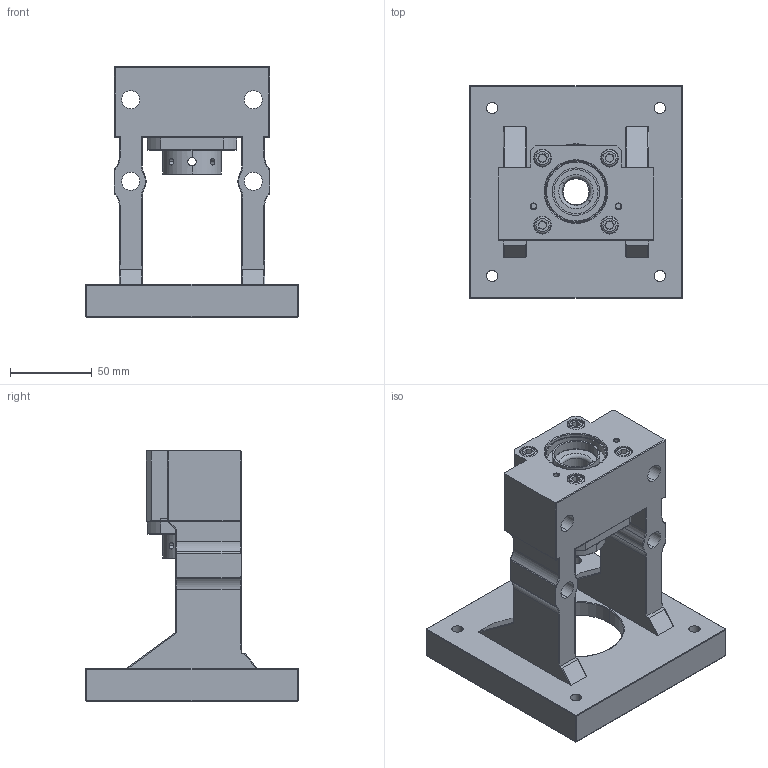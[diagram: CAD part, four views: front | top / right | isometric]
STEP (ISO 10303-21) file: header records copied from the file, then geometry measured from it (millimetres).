
FILE_DESCRIPTION (( 'STEP AP203' ), '1' );
FILE_NAME ('MBCS17-G.STEP', '2017-12-28T07:50:57', ( '' ), ( '' ), 'SwSTEP 2.0', 'SolidWorks 2017', '' );
FILE_SCHEMA (( 'CONFIG_CONTROL_DESIGN' ));
Length unit declared in the file: millimetre
Products named in the file (1): MBCS17-G
Bounding box: 130 x 130 x 153 mm (x, y, z)
Surface area: 109044.5 mm2 (no closed solid volume)
Topology: 0 solids, 16 shells, 376 faces, 957 edges, 586 vertices
Faces by surface type: cylinder 172, plane 96, cone 50, torus 48, sphere 10
Entity records: 12061 total; most frequent: CARTESIAN_POINT 2886, DIRECTION 2033, ORIENTED_EDGE 1758, EDGE_CURVE 939, AXIS2_PLACEMENT_3D 803, VERTEX_POINT 586, EDGE_LOOP 443, LINE 427
